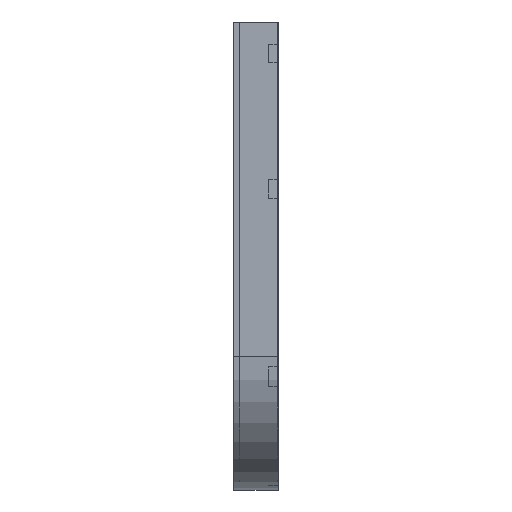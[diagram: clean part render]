
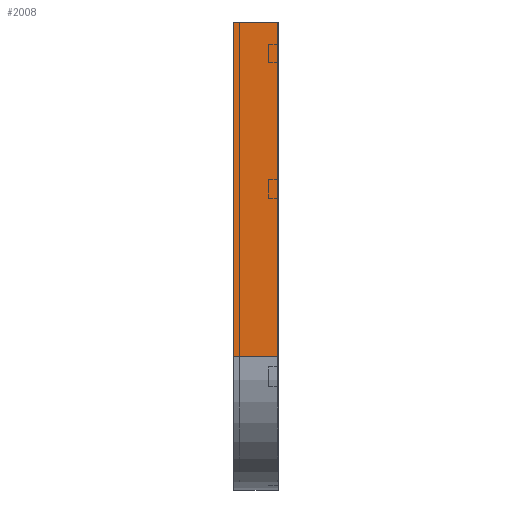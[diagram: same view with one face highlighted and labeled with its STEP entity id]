
A CAD part, left-side view. The second image highlights one B-rep face of the part: STEP entity #2008.
In plain terms, the highlighted planar face has unit normal (-1, 0, 0).
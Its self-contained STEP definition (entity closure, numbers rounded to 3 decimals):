
#14 = FACE_OUTER_BOUND ( 'NONE', #218, .T. ) ;
#48 = ORIENTED_EDGE ( 'NONE', *, *, #1298, .T. ) ;
#94 = LINE ( 'NONE', #1029, #950 ) ;
#126 = LINE ( 'NONE', #918, #733 ) ;
#137 = VERTEX_POINT ( 'NONE', #201 ) ;
#185 = CARTESIAN_POINT ( 'NONE',  ( 0., 0., 0. ) ) ;
#201 = CARTESIAN_POINT ( 'NONE',  ( 0., 100., 0. ) ) ;
#218 = EDGE_LOOP ( 'NONE', ( #959, #1649, #48, #746 ) ) ;
#223 = DIRECTION ( 'NONE',  ( 1., 0., 0. ) ) ;
#292 = DIRECTION ( 'NONE',  ( 0., -1., 0. ) ) ;
#402 = AXIS2_PLACEMENT_3D ( 'NONE', #185, #223, #1776 ) ;
#437 = VERTEX_POINT ( 'NONE', #1308 ) ;
#445 = VERTEX_POINT ( 'NONE', #1061 ) ;
#726 = EDGE_CURVE ( 'NONE', #445, #437, #94, .T. ) ;
#733 = VECTOR ( 'NONE', #1234, 1000. ) ;
#746 = ORIENTED_EDGE ( 'NONE', *, *, #1911, .T. ) ;
#823 = LINE ( 'NONE', #1644, #1969 ) ;
#918 = CARTESIAN_POINT ( 'NONE',  ( 0., 100., 0. ) ) ;
#950 = VECTOR ( 'NONE', #1522, 1000. ) ;
#959 = ORIENTED_EDGE ( 'NONE', *, *, #726, .F. ) ;
#1029 = CARTESIAN_POINT ( 'NONE',  ( 0., 0., 0. ) ) ;
#1061 = CARTESIAN_POINT ( 'NONE',  ( 0., 0., 0. ) ) ;
#1098 = CARTESIAN_POINT ( 'NONE',  ( 0., 0., -750. ) ) ;
#1153 = EDGE_CURVE ( 'NONE', #137, #445, #823, .T. ) ;
#1234 = DIRECTION ( 'NONE',  ( 0., 0., -1. ) ) ;
#1260 = LINE ( 'NONE', #1098, #1961 ) ;
#1288 = PLANE ( 'NONE',  #402 ) ;
#1298 = EDGE_CURVE ( 'NONE', #137, #1920, #126, .T. ) ;
#1308 = CARTESIAN_POINT ( 'NONE',  ( 0., 0., -750. ) ) ;
#1522 = DIRECTION ( 'NONE',  ( 0., 0., -1. ) ) ;
#1622 = DIRECTION ( 'NONE',  ( 0., -1., 0. ) ) ;
#1644 = CARTESIAN_POINT ( 'NONE',  ( 0., 0., 0. ) ) ;
#1649 = ORIENTED_EDGE ( 'NONE', *, *, #1153, .F. ) ;
#1765 = CARTESIAN_POINT ( 'NONE',  ( 0., 100., -750. ) ) ;
#1776 = DIRECTION ( 'NONE',  ( 0., 0., -1. ) ) ;
#1911 = EDGE_CURVE ( 'NONE', #1920, #437, #1260, .T. ) ;
#1920 = VERTEX_POINT ( 'NONE', #1765 ) ;
#1961 = VECTOR ( 'NONE', #292, 1000. ) ;
#1969 = VECTOR ( 'NONE', #1622, 1000. ) ;
#2008 = ADVANCED_FACE ( 'NONE', ( #14 ), #1288, .F. ) ;
